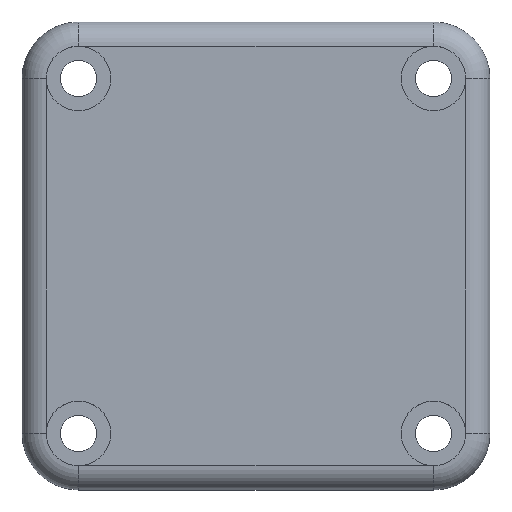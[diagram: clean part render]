
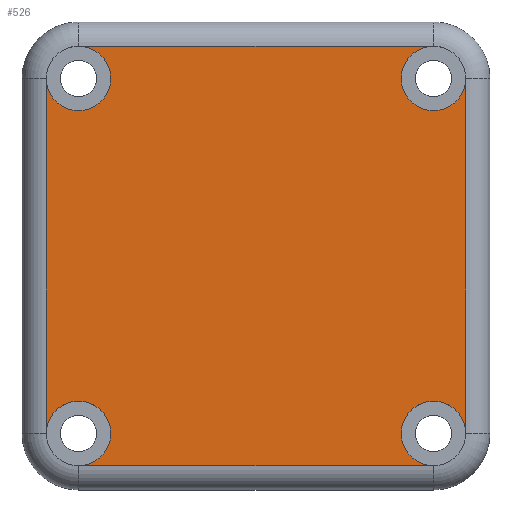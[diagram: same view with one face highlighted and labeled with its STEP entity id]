
A CAD part, top view. The second image highlights one B-rep face of the part: STEP entity #526.
In plain terms, the highlighted planar face has unit normal (0, 0, 1).
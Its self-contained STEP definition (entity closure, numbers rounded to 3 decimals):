
#29=LINE('',#910,#59);
#30=LINE('',#911,#60);
#31=LINE('',#912,#61);
#32=LINE('',#913,#62);
#59=VECTOR('',#732,10.);
#60=VECTOR('',#733,10.);
#61=VECTOR('',#734,10.);
#62=VECTOR('',#735,10.);
#120=FACE_OUTER_BOUND('',#159,.T.);
#159=EDGE_LOOP('',(#398,#399,#400,#401,#402,#403,#404,#405,#406,#407));
#191=CIRCLE('',#577,4.);
#192=CIRCLE('',#578,4.);
#196=CIRCLE('',#585,4.);
#198=CIRCLE('',#587,4.);
#202=CIRCLE('',#594,4.);
#207=CIRCLE('',#602,4.);
#235=VERTEX_POINT('',#851);
#236=VERTEX_POINT('',#852);
#237=VERTEX_POINT('',#854);
#241=VERTEX_POINT('',#868);
#242=VERTEX_POINT('',#869);
#243=VERTEX_POINT('',#871);
#247=VERTEX_POINT('',#885);
#248=VERTEX_POINT('',#886);
#252=VERTEX_POINT('',#900);
#253=VERTEX_POINT('',#901);
#280=EDGE_CURVE('',#237,#235,#191,.T.);
#282=EDGE_CURVE('',#236,#237,#192,.T.);
#287=EDGE_CURVE('',#241,#242,#196,.T.);
#289=EDGE_CURVE('',#242,#243,#198,.T.);
#295=EDGE_CURVE('',#247,#248,#202,.T.);
#302=EDGE_CURVE('',#252,#253,#207,.T.);
#307=EDGE_CURVE('',#241,#235,#29,.T.);
#308=EDGE_CURVE('',#247,#243,#30,.T.);
#309=EDGE_CURVE('',#252,#248,#31,.T.);
#310=EDGE_CURVE('',#236,#253,#32,.T.);
#398=ORIENTED_EDGE('',*,*,#282,.T.);
#399=ORIENTED_EDGE('',*,*,#280,.T.);
#400=ORIENTED_EDGE('',*,*,#307,.F.);
#401=ORIENTED_EDGE('',*,*,#287,.T.);
#402=ORIENTED_EDGE('',*,*,#289,.T.);
#403=ORIENTED_EDGE('',*,*,#308,.F.);
#404=ORIENTED_EDGE('',*,*,#295,.T.);
#405=ORIENTED_EDGE('',*,*,#309,.F.);
#406=ORIENTED_EDGE('',*,*,#302,.T.);
#407=ORIENTED_EDGE('',*,*,#310,.F.);
#506=PLANE('',#606);
#526=ADVANCED_FACE('',(#120),#506,.T.);
#577=AXIS2_PLACEMENT_3D('',#855,#664,#665);
#578=AXIS2_PLACEMENT_3D('',#857,#667,#668);
#585=AXIS2_PLACEMENT_3D('',#870,#682,#683);
#587=AXIS2_PLACEMENT_3D('',#873,#686,#687);
#594=AXIS2_PLACEMENT_3D('',#887,#702,#703);
#602=AXIS2_PLACEMENT_3D('',#902,#720,#721);
#606=AXIS2_PLACEMENT_3D('',#909,#730,#731);
#664=DIRECTION('center_axis',(0.,0.,-1.));
#665=DIRECTION('ref_axis',(1.,0.,0.));
#667=DIRECTION('center_axis',(0.,0.,-1.));
#668=DIRECTION('ref_axis',(1.,0.,0.));
#682=DIRECTION('center_axis',(0.,0.,-1.));
#683=DIRECTION('ref_axis',(1.,0.,0.));
#686=DIRECTION('center_axis',(0.,0.,-1.));
#687=DIRECTION('ref_axis',(1.,0.,0.));
#702=DIRECTION('center_axis',(0.,0.,-1.));
#703=DIRECTION('ref_axis',(1.,0.,0.));
#720=DIRECTION('center_axis',(0.,0.,-1.));
#721=DIRECTION('ref_axis',(1.,0.,0.));
#730=DIRECTION('center_axis',(0.,0.,1.));
#731=DIRECTION('ref_axis',(1.,0.,0.));
#732=DIRECTION('',(0.,-1.,0.));
#733=DIRECTION('',(1.,0.,0.));
#734=DIRECTION('',(0.,1.,0.));
#735=DIRECTION('',(-1.,0.,0.));
#851=CARTESIAN_POINT('',(26.,-22.,10.));
#852=CARTESIAN_POINT('',(22.,-26.,10.));
#854=CARTESIAN_POINT('',(18.,-22.,10.));
#855=CARTESIAN_POINT('Origin',(22.,-22.,10.));
#857=CARTESIAN_POINT('Origin',(22.,-22.,10.));
#868=CARTESIAN_POINT('',(26.,22.,10.));
#869=CARTESIAN_POINT('',(18.,22.,10.));
#870=CARTESIAN_POINT('Origin',(22.,22.,10.));
#871=CARTESIAN_POINT('',(22.,26.,10.));
#873=CARTESIAN_POINT('Origin',(22.,22.,10.));
#885=CARTESIAN_POINT('',(-22.,26.,10.));
#886=CARTESIAN_POINT('',(-26.,22.,10.));
#887=CARTESIAN_POINT('Origin',(-22.,22.,10.));
#900=CARTESIAN_POINT('',(-26.,-22.,10.));
#901=CARTESIAN_POINT('',(-22.,-26.,10.));
#902=CARTESIAN_POINT('Origin',(-22.,-22.,10.));
#909=CARTESIAN_POINT('Origin',(0.,0.,10.));
#910=CARTESIAN_POINT('',(26.,-11.,10.));
#911=CARTESIAN_POINT('',(11.,26.,10.));
#912=CARTESIAN_POINT('',(-26.,11.,10.));
#913=CARTESIAN_POINT('',(-11.,-26.,10.));
